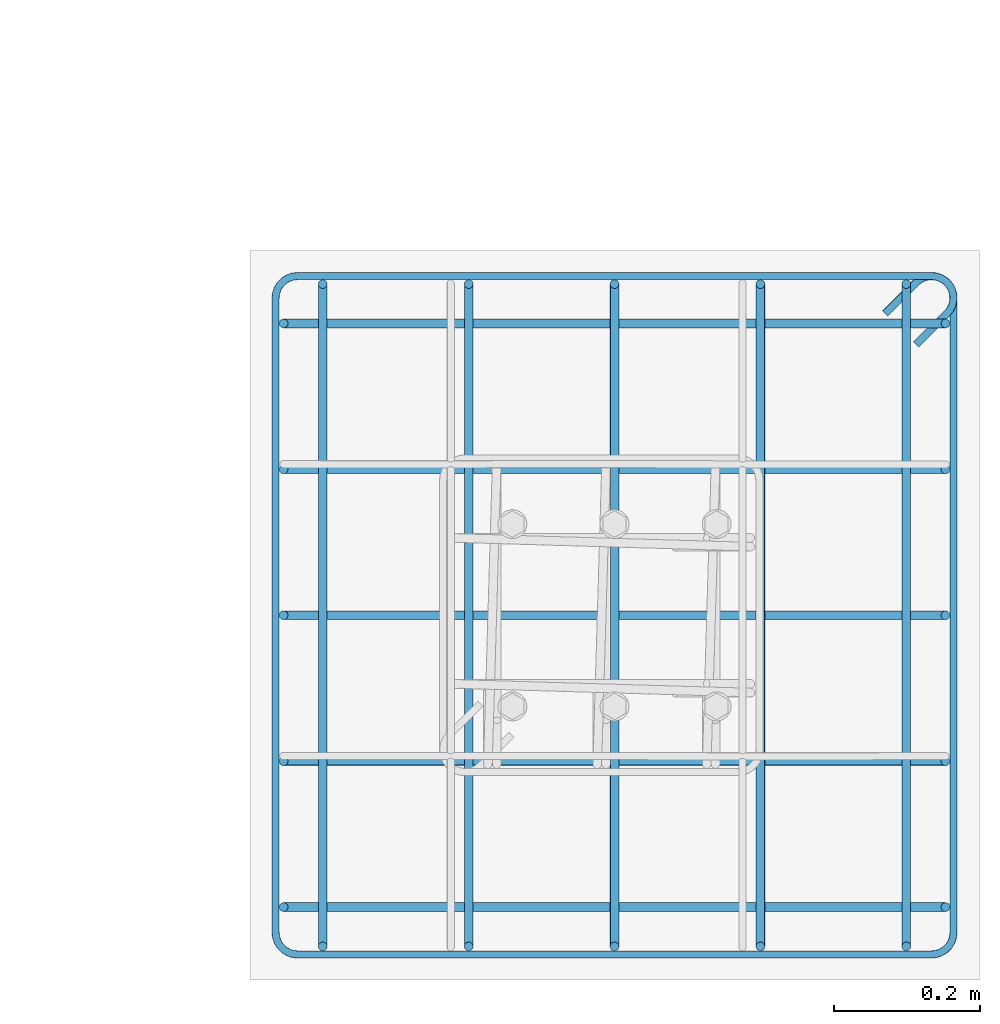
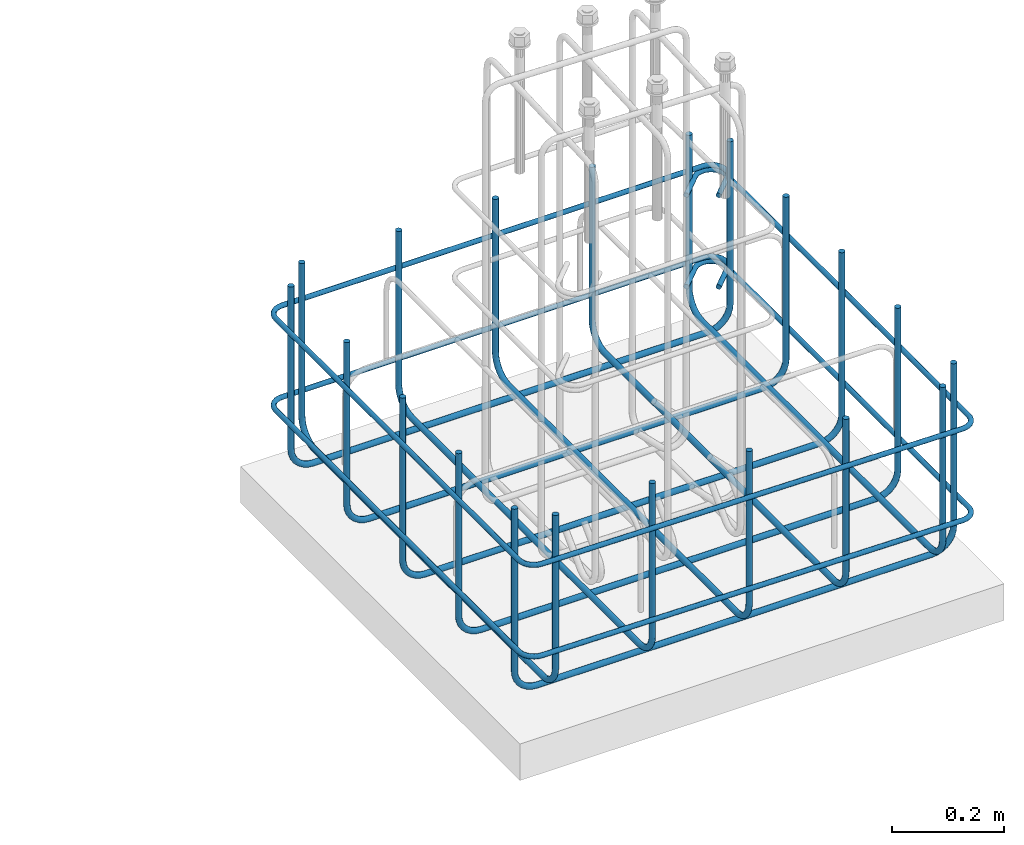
# One storey, part 9 of 12: 3 reinforcing bars.
"""IFC4X3_ADD2 building model written with IfcOpenShell, lengths in millimetres."""

from ifc_helpers import new_model, entity, si_unit, converted_unit, derived_unit, direction, frame, origin, place, context, subcontext, project, spatial, material, type_object, element, save


model = new_model("IFC4X3_ADD2")

# Units and contexts
model_context = context("Model", 3, precision=0.01, world=origin(), true_north=direction((6.123233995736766e-17, 1.0)))
plan_context = context("Plan", 3, precision=0.01, world=origin(), true_north=direction((6.123233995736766e-17, 1.0)))
body_context = subcontext(model_context, "Body", "Model", "MODEL_VIEW")
ifc_project = project(units=[si_unit("LENGTHUNIT", "METRE", prefix="MILLI"), converted_unit("PLANEANGLEUNIT", "DEGREE", entity("IfcPlaneAngleMeasure", 0.017453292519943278), si_unit("PLANEANGLEUNIT", "RADIAN"), dimensions=[0, 0, 0, 0, 0, 0, 0]), si_unit("AREAUNIT", "SQUARE_METRE"), si_unit("VOLUMEUNIT", "CUBIC_METRE"), derived_unit("THERMALTRANSMITTANCEUNIT", [(si_unit("MASSUNIT", "GRAM", prefix="KILO"), 1), (si_unit("THERMODYNAMICTEMPERATUREUNIT", "KELVIN"), -1), (si_unit("TIMEUNIT", "SECOND"), -3)]), derived_unit("USERDEFINED", [(si_unit("MASSUNIT", "GRAM", prefix="KILO"), 1), (si_unit("THERMODYNAMICTEMPERATUREUNIT", "KELVIN"), -1), (si_unit("TIMEUNIT", "SECOND"), -2)]), derived_unit("THERMALRESISTANCEUNIT", [(si_unit("MASSUNIT", "GRAM", prefix="KILO"), -1), (si_unit("TIMEUNIT", "SECOND"), 3), (si_unit("THERMODYNAMICTEMPERATUREUNIT", "KELVIN"), 1)]), si_unit("MASSUNIT", "GRAM", prefix="KILO"), derived_unit("MOMENTOFINERTIAUNIT", [(si_unit("LENGTHUNIT", "METRE"), 4)]), derived_unit("LINEARFORCEUNIT", [(si_unit("MASSUNIT", "GRAM", prefix="KILO"), 1), (si_unit("TIMEUNIT", "SECOND"), -2)]), derived_unit("WARPINGCONSTANTUNIT", [(si_unit("LENGTHUNIT", "METRE"), 6)]), si_unit("PRESSUREUNIT", "PASCAL"), derived_unit("MASSDENSITYUNIT", [(si_unit("MASSUNIT", "GRAM", prefix="KILO"), 1), (si_unit("LENGTHUNIT", "METRE"), -3)]), derived_unit("MODULUSOFELASTICITYUNIT", [(si_unit("MASSUNIT", "GRAM", prefix="KILO"), 1), (si_unit("TIMEUNIT", "SECOND"), -2), (si_unit("LENGTHUNIT", "METRE"), -1)]), derived_unit("THERMALEXPANSIONCOEFFICIENTUNIT", [(si_unit("THERMODYNAMICTEMPERATUREUNIT", "KELVIN"), -1)]), derived_unit("VAPORPERMEABILITYUNIT", [(si_unit("LENGTHUNIT", "METRE"), -1), (si_unit("TIMEUNIT", "SECOND"), 1)]), derived_unit("USERDEFINED", [(si_unit("MASSUNIT", "GRAM", prefix="KILO"), 1), (si_unit("TIMEUNIT", "SECOND"), -3), (si_unit("LENGTHUNIT", "METRE"), 3), (si_unit("ELECTRICCURRENTUNIT", "AMPERE"), -2)]), derived_unit("SPECIFICHEATCAPACITYUNIT", [(si_unit("THERMODYNAMICTEMPERATUREUNIT", "KELVIN"), -1), (si_unit("TIMEUNIT", "SECOND"), -2), (si_unit("LENGTHUNIT", "METRE"), 2)]), derived_unit("THERMALCONDUCTANCEUNIT", [(si_unit("MASSUNIT", "GRAM", prefix="KILO"), 1), (si_unit("THERMODYNAMICTEMPERATUREUNIT", "KELVIN"), -1), (si_unit("TIMEUNIT", "SECOND"), -3), (si_unit("LENGTHUNIT", "METRE"), 1)])], contexts=[model_context, plan_context])

# Site, building, storey
site_placement = place(None, origin())
site = spatial("IfcSite", under=ifc_project, at=site_placement, Name="Default", CompositionType="ELEMENT")
building_placement = place(site_placement, origin())
building = spatial("IfcBuilding", under=site, at=building_placement, Name="Complex structure", CompositionType="ELEMENT")
storey_placement = place(building_placement, frame((0.0, 0.0, -1200.0)))
storey = spatial("IfcBuildingStorey", under=building, at=storey_placement, Name="Level -03", CompositionType="ELEMENT", Elevation=-1200.0)

# Reinforcing bars
ifc_material = material(Name="Steel Rebar - B500A, B or C", Category="Unassigned")
reinforcing_bar_type_1 = type_object("IfcReinforcingBarType", Name="Rebar Bar:12mm", PredefinedType="NOTDEFINED")
reinforcing_bar_1_placement = place(storey_placement, origin())
ifc_direction_1 = entity("IfcDirection", [-1.0, 0.0, 0.0])
ifc_direction_2 = entity("IfcDirection", [-1.0, 0.0, 0.0])
ifc_direction_3 = entity("IfcDirection", [-1.0, 0.0, 0.0])
ifc_direction_4 = entity("IfcDirection", [-1.0, 0.0, 0.0])
ifc_direction_5 = entity("IfcDirection", [-1.0, 0.0, 0.0])
element("IfcReinforcingBar", 1, at=reinforcing_bar_1_placement, inside=storey, type_object=reinforcing_bar_type_1, material=ifc_material, Name="Rebar Bar:12mm : Shape 21", ObjectType="Rebar Bar:12mm", context=body_context, shape_type="AdvancedSweptSolid", body=[
    entity("IfcSweptDiskSolid", entity("IfcCompositeCurve", [entity("IfcCompositeCurveSegment", "CONTINUOUS", True, entity("IfcPolyline", [entity("IfcCartesianPoint", [-745.221550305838, -828.8667039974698, 440.0]), entity("IfcCartesianPoint", [-745.221550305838, -828.8667039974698, 104.0])])), entity("IfcCompositeCurveSegment", "CONTINUOUS", True, entity("IfcTrimmedCurve", entity("IfcCircle", entity("IfcAxis2Placement3D", entity("IfcCartesianPoint", [-745.2215503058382, -874.8667039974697, 104.0]), ifc_direction_1, entity("IfcDirection", [0.0, 0.0, -1.0])), 46.0), [entity("IfcParameterValue", 269.9999999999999)], [entity("IfcParameterValue", 360.00000000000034)], True, "PARAMETER")), entity("IfcCompositeCurveSegment", "CONTINUOUS", True, entity("IfcPolyline", [entity("IfcCartesianPoint", [-745.2215503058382, -874.8667039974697, 58.0]), entity("IfcCartesianPoint", [-745.22155030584, -1690.866703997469, 58.0])])), entity("IfcCompositeCurveSegment", "CONTINUOUS", True, entity("IfcTrimmedCurve", entity("IfcCircle", entity("IfcAxis2Placement3D", entity("IfcCartesianPoint", [-745.22155030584, -1690.866703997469, 104.0]), ifc_direction_1, entity("IfcDirection", [0.0, -1.0, 0.0])), 46.0), [entity("IfcParameterValue", 269.9999999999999)], [entity("IfcParameterValue", 360.00000000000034)], True, "PARAMETER")), entity("IfcCompositeCurveSegment", "CONTINUOUS", True, entity("IfcPolyline", [entity("IfcCartesianPoint", [-745.2215503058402, -1736.8667039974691, 104.0]), entity("IfcCartesianPoint", [-745.2215503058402, -1736.8667039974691, 440.0])]))], False), 6.0, None, 0.0, 183.00000000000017),
    entity("IfcSweptDiskSolid", entity("IfcCompositeCurve", [entity("IfcCompositeCurveSegment", "CONTINUOUS", True, entity("IfcPolyline", [entity("IfcCartesianPoint", [-945.221550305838, -828.8667039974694, 440.0]), entity("IfcCartesianPoint", [-945.221550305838, -828.8667039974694, 104.0])])), entity("IfcCompositeCurveSegment", "CONTINUOUS", True, entity("IfcTrimmedCurve", entity("IfcCircle", entity("IfcAxis2Placement3D", entity("IfcCartesianPoint", [-945.2215503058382, -874.8667039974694, 104.0]), ifc_direction_2, entity("IfcDirection", [0.0, 0.0, -1.0])), 46.0), [entity("IfcParameterValue", 269.9999999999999)], [entity("IfcParameterValue", 360.00000000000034)], True, "PARAMETER")), entity("IfcCompositeCurveSegment", "CONTINUOUS", True, entity("IfcPolyline", [entity("IfcCartesianPoint", [-945.2215503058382, -874.8667039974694, 58.0]), entity("IfcCartesianPoint", [-945.2215503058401, -1690.8667039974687, 58.0])])), entity("IfcCompositeCurveSegment", "CONTINUOUS", True, entity("IfcTrimmedCurve", entity("IfcCircle", entity("IfcAxis2Placement3D", entity("IfcCartesianPoint", [-945.2215503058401, -1690.8667039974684, 104.0]), ifc_direction_2, entity("IfcDirection", [0.0, -1.0, 0.0])), 46.0), [entity("IfcParameterValue", 269.9999999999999)], [entity("IfcParameterValue", 360.00000000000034)], True, "PARAMETER")), entity("IfcCompositeCurveSegment", "CONTINUOUS", True, entity("IfcPolyline", [entity("IfcCartesianPoint", [-945.2215503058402, -1736.8667039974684, 104.0]), entity("IfcCartesianPoint", [-945.2215503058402, -1736.8667039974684, 440.0])]))], False), 6.0, None, 0.0, 183.00000000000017),
    entity("IfcSweptDiskSolid", entity("IfcCompositeCurve", [entity("IfcCompositeCurveSegment", "CONTINUOUS", True, entity("IfcPolyline", [entity("IfcCartesianPoint", [-1145.221550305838, -828.8667039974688, 440.0]), entity("IfcCartesianPoint", [-1145.221550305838, -828.8667039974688, 104.0])])), entity("IfcCompositeCurveSegment", "CONTINUOUS", True, entity("IfcTrimmedCurve", entity("IfcCircle", entity("IfcAxis2Placement3D", entity("IfcCartesianPoint", [-1145.2215503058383, -874.8667039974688, 104.0]), ifc_direction_3, entity("IfcDirection", [0.0, 0.0, -1.0])), 46.0), [entity("IfcParameterValue", 269.9999999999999)], [entity("IfcParameterValue", 360.00000000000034)], True, "PARAMETER")), entity("IfcCompositeCurveSegment", "CONTINUOUS", True, entity("IfcPolyline", [entity("IfcCartesianPoint", [-1145.2215503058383, -874.8667039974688, 58.0]), entity("IfcCartesianPoint", [-1145.22155030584, -1690.8667039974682, 58.0])])), entity("IfcCompositeCurveSegment", "CONTINUOUS", True, entity("IfcTrimmedCurve", entity("IfcCircle", entity("IfcAxis2Placement3D", entity("IfcCartesianPoint", [-1145.22155030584, -1690.8667039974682, 104.0]), ifc_direction_3, entity("IfcDirection", [0.0, -1.0, 0.0])), 46.0), [entity("IfcParameterValue", 269.9999999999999)], [entity("IfcParameterValue", 360.00000000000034)], True, "PARAMETER")), entity("IfcCompositeCurveSegment", "CONTINUOUS", True, entity("IfcPolyline", [entity("IfcCartesianPoint", [-1145.22155030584, -1736.8667039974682, 104.0]), entity("IfcCartesianPoint", [-1145.22155030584, -1736.8667039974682, 440.0])]))], False), 6.0, None, 0.0, 183.00000000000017),
    entity("IfcSweptDiskSolid", entity("IfcCompositeCurve", [entity("IfcCompositeCurveSegment", "CONTINUOUS", True, entity("IfcPolyline", [entity("IfcCartesianPoint", [-1345.221550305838, -828.8667039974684, 440.0]), entity("IfcCartesianPoint", [-1345.221550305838, -828.8667039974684, 104.0])])), entity("IfcCompositeCurveSegment", "CONTINUOUS", True, entity("IfcTrimmedCurve", entity("IfcCircle", entity("IfcAxis2Placement3D", entity("IfcCartesianPoint", [-1345.221550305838, -874.8667039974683, 104.0]), ifc_direction_4, entity("IfcDirection", [0.0, 0.0, -1.0])), 46.0), [entity("IfcParameterValue", 269.9999999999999)], [entity("IfcParameterValue", 360.00000000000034)], True, "PARAMETER")), entity("IfcCompositeCurveSegment", "CONTINUOUS", True, entity("IfcPolyline", [entity("IfcCartesianPoint", [-1345.221550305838, -874.8667039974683, 58.0]), entity("IfcCartesianPoint", [-1345.2215503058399, -1690.8667039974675, 58.0])])), entity("IfcCompositeCurveSegment", "CONTINUOUS", True, entity("IfcTrimmedCurve", entity("IfcCircle", entity("IfcAxis2Placement3D", entity("IfcCartesianPoint", [-1345.2215503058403, -1690.8667039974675, 104.0]), ifc_direction_4, entity("IfcDirection", [0.0, -1.0, 0.0])), 46.0), [entity("IfcParameterValue", 269.9999999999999)], [entity("IfcParameterValue", 360.00000000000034)], True, "PARAMETER")), entity("IfcCompositeCurveSegment", "CONTINUOUS", True, entity("IfcPolyline", [entity("IfcCartesianPoint", [-1345.2215503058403, -1736.8667039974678, 104.0]), entity("IfcCartesianPoint", [-1345.2215503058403, -1736.8667039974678, 440.0])]))], False), 6.0, None, 0.0, 183.00000000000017),
    entity("IfcSweptDiskSolid", entity("IfcCompositeCurve", [entity("IfcCompositeCurveSegment", "CONTINUOUS", True, entity("IfcPolyline", [entity("IfcCartesianPoint", [-1545.221550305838, -828.8667039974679, 440.0]), entity("IfcCartesianPoint", [-1545.221550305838, -828.8667039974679, 104.0])])), entity("IfcCompositeCurveSegment", "CONTINUOUS", True, entity("IfcTrimmedCurve", entity("IfcCircle", entity("IfcAxis2Placement3D", entity("IfcCartesianPoint", [-1545.221550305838, -874.8667039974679, 104.0]), ifc_direction_5, entity("IfcDirection", [0.0, 0.0, -1.0])), 46.0), [entity("IfcParameterValue", 269.9999999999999)], [entity("IfcParameterValue", 360.00000000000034)], True, "PARAMETER")), entity("IfcCompositeCurveSegment", "CONTINUOUS", True, entity("IfcPolyline", [entity("IfcCartesianPoint", [-1545.221550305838, -874.8667039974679, 58.0]), entity("IfcCartesianPoint", [-1545.2215503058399, -1690.866703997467, 58.0])])), entity("IfcCompositeCurveSegment", "CONTINUOUS", True, entity("IfcTrimmedCurve", entity("IfcCircle", entity("IfcAxis2Placement3D", entity("IfcCartesianPoint", [-1545.2215503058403, -1690.866703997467, 104.0]), ifc_direction_5, entity("IfcDirection", [0.0, -1.0, 0.0])), 46.0), [entity("IfcParameterValue", 269.9999999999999)], [entity("IfcParameterValue", 360.00000000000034)], True, "PARAMETER")), entity("IfcCompositeCurveSegment", "CONTINUOUS", True, entity("IfcPolyline", [entity("IfcCartesianPoint", [-1545.2215503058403, -1736.866703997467, 104.0]), entity("IfcCartesianPoint", [-1545.2215503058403, -1736.866703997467, 440.0])]))], False), 6.0, None, 0.0, 183.00000000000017),
])
reinforcing_bar_2_placement = place(storey_placement, origin())
ifc_direction_6 = entity("IfcDirection", [0.0, -1.0, 0.0])
ifc_direction_7 = entity("IfcDirection", [0.0, -1.0, 0.0])
ifc_direction_8 = entity("IfcDirection", [0.0, -1.0, 0.0])
ifc_direction_9 = entity("IfcDirection", [0.0, -1.0, 0.0])
ifc_direction_10 = entity("IfcDirection", [0.0, -1.0, 0.0])
element("IfcReinforcingBar", 2, at=reinforcing_bar_2_placement, inside=storey, type_object=reinforcing_bar_type_1, material=ifc_material, Name="Rebar Bar:12mm : Shape 21", ObjectType="Rebar Bar:12mm", context=body_context, shape_type="AdvancedSweptSolid", body=[
    entity("IfcSweptDiskSolid", entity("IfcCompositeCurve", [entity("IfcCompositeCurveSegment", "CONTINUOUS", True, entity("IfcPolyline", [entity("IfcCartesianPoint", [-1598.8715503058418, -882.8667039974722, 440.0]), entity("IfcCartesianPoint", [-1598.8715503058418, -882.8667039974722, 82.0])])), entity("IfcCompositeCurveSegment", "CONTINUOUS", True, entity("IfcTrimmedCurve", entity("IfcCircle", entity("IfcAxis2Placement3D", entity("IfcCartesianPoint", [-1552.8715503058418, -882.8667039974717, 82.0]), ifc_direction_6, entity("IfcDirection", [0.0, 0.0, -1.0])), 46.0), [entity("IfcParameterValue", 269.9999999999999)], [entity("IfcParameterValue", 360.00000000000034)], True, "PARAMETER")), entity("IfcCompositeCurveSegment", "CONTINUOUS", True, entity("IfcPolyline", [entity("IfcCartesianPoint", [-1552.8715503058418, -882.8667039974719, 36.0]), entity("IfcCartesianPoint", [-737.5715503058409, -882.8667039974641, 36.0])])), entity("IfcCompositeCurveSegment", "CONTINUOUS", True, entity("IfcTrimmedCurve", entity("IfcCircle", entity("IfcAxis2Placement3D", entity("IfcCartesianPoint", [-737.5715503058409, -882.8667039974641, 82.0]), ifc_direction_6, entity("IfcDirection", [1.0, 0.0, 0.0])), 46.0), [entity("IfcParameterValue", 269.9999999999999)], [entity("IfcParameterValue", 360.00000000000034)], True, "PARAMETER")), entity("IfcCompositeCurveSegment", "CONTINUOUS", True, entity("IfcPolyline", [entity("IfcCartesianPoint", [-691.571550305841, -882.8667039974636, 82.0]), entity("IfcCartesianPoint", [-691.571550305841, -882.8667039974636, 440.0])]))], False), 6.0, None, 0.0, 183.00000000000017),
    entity("IfcSweptDiskSolid", entity("IfcCompositeCurve", [entity("IfcCompositeCurveSegment", "CONTINUOUS", True, entity("IfcPolyline", [entity("IfcCartesianPoint", [-1598.87155030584, -1082.8667039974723, 440.0]), entity("IfcCartesianPoint", [-1598.87155030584, -1082.8667039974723, 82.0])])), entity("IfcCompositeCurveSegment", "CONTINUOUS", True, entity("IfcTrimmedCurve", entity("IfcCircle", entity("IfcAxis2Placement3D", entity("IfcCartesianPoint", [-1552.8715503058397, -1082.8667039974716, 82.0]), ifc_direction_7, entity("IfcDirection", [0.0, 0.0, -1.0])), 46.0), [entity("IfcParameterValue", 269.9999999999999)], [entity("IfcParameterValue", 360.00000000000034)], True, "PARAMETER")), entity("IfcCompositeCurveSegment", "CONTINUOUS", True, entity("IfcPolyline", [entity("IfcCartesianPoint", [-1552.8715503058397, -1082.8667039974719, 36.0]), entity("IfcCartesianPoint", [-737.5715503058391, -1082.8667039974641, 36.0])])), entity("IfcCompositeCurveSegment", "CONTINUOUS", True, entity("IfcTrimmedCurve", entity("IfcCircle", entity("IfcAxis2Placement3D", entity("IfcCartesianPoint", [-737.5715503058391, -1082.8667039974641, 82.0]), ifc_direction_7, entity("IfcDirection", [1.0, 0.0, 0.0])), 46.0), [entity("IfcParameterValue", 269.9999999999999)], [entity("IfcParameterValue", 360.00000000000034)], True, "PARAMETER")), entity("IfcCompositeCurveSegment", "CONTINUOUS", True, entity("IfcPolyline", [entity("IfcCartesianPoint", [-691.5715503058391, -1082.8667039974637, 82.0]), entity("IfcCartesianPoint", [-691.5715503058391, -1082.8667039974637, 440.0])]))], False), 6.0, None, 0.0, 183.00000000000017),
    entity("IfcSweptDiskSolid", entity("IfcCompositeCurve", [entity("IfcCompositeCurveSegment", "CONTINUOUS", True, entity("IfcPolyline", [entity("IfcCartesianPoint", [-1598.8715503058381, -1282.866703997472, 440.0]), entity("IfcCartesianPoint", [-1598.8715503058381, -1282.866703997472, 82.0])])), entity("IfcCompositeCurveSegment", "CONTINUOUS", True, entity("IfcTrimmedCurve", entity("IfcCircle", entity("IfcAxis2Placement3D", entity("IfcCartesianPoint", [-1552.871550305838, -1282.8667039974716, 82.0]), ifc_direction_8, entity("IfcDirection", [0.0, 0.0, -1.0])), 46.0), [entity("IfcParameterValue", 269.9999999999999)], [entity("IfcParameterValue", 360.00000000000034)], True, "PARAMETER")), entity("IfcCompositeCurveSegment", "CONTINUOUS", True, entity("IfcPolyline", [entity("IfcCartesianPoint", [-1552.871550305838, -1282.8667039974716, 36.0]), entity("IfcCartesianPoint", [-737.5715503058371, -1282.866703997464, 36.0])])), entity("IfcCompositeCurveSegment", "CONTINUOUS", True, entity("IfcTrimmedCurve", entity("IfcCircle", entity("IfcAxis2Placement3D", entity("IfcCartesianPoint", [-737.5715503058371, -1282.866703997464, 82.0]), ifc_direction_8, entity("IfcDirection", [1.0, 0.0, 0.0])), 46.0), [entity("IfcParameterValue", 269.9999999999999)], [entity("IfcParameterValue", 360.00000000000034)], True, "PARAMETER")), entity("IfcCompositeCurveSegment", "CONTINUOUS", True, entity("IfcPolyline", [entity("IfcCartesianPoint", [-691.5715503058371, -1282.8667039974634, 82.0]), entity("IfcCartesianPoint", [-691.5715503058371, -1282.8667039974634, 440.0])]))], False), 6.0, None, 0.0, 183.00000000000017),
    entity("IfcSweptDiskSolid", entity("IfcCompositeCurve", [entity("IfcCompositeCurveSegment", "CONTINUOUS", True, entity("IfcPolyline", [entity("IfcCartesianPoint", [-1598.871550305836, -1482.866703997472, 440.0]), entity("IfcCartesianPoint", [-1598.871550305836, -1482.866703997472, 82.0])])), entity("IfcCompositeCurveSegment", "CONTINUOUS", True, entity("IfcTrimmedCurve", entity("IfcCircle", entity("IfcAxis2Placement3D", entity("IfcCartesianPoint", [-1552.871550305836, -1482.8667039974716, 82.0]), ifc_direction_9, entity("IfcDirection", [0.0, 0.0, -1.0])), 46.0), [entity("IfcParameterValue", 269.9999999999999)], [entity("IfcParameterValue", 360.00000000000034)], True, "PARAMETER")), entity("IfcCompositeCurveSegment", "CONTINUOUS", True, entity("IfcPolyline", [entity("IfcCartesianPoint", [-1552.871550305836, -1482.8667039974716, 36.0]), entity("IfcCartesianPoint", [-737.5715503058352, -1482.8667039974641, 36.0])])), entity("IfcCompositeCurveSegment", "CONTINUOUS", True, entity("IfcTrimmedCurve", entity("IfcCircle", entity("IfcAxis2Placement3D", entity("IfcCartesianPoint", [-737.5715503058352, -1482.8667039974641, 82.0]), ifc_direction_9, entity("IfcDirection", [1.0, 0.0, 0.0])), 46.0), [entity("IfcParameterValue", 269.9999999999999)], [entity("IfcParameterValue", 360.00000000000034)], True, "PARAMETER")), entity("IfcCompositeCurveSegment", "CONTINUOUS", True, entity("IfcPolyline", [entity("IfcCartesianPoint", [-691.5715503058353, -1482.8667039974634, 82.0]), entity("IfcCartesianPoint", [-691.5715503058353, -1482.8667039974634, 440.0])]))], False), 6.0, None, 0.0, 183.00000000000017),
    entity("IfcSweptDiskSolid", entity("IfcCompositeCurve", [entity("IfcCompositeCurveSegment", "CONTINUOUS", True, entity("IfcPolyline", [entity("IfcCartesianPoint", [-1598.8715503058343, -1682.866703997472, 440.0]), entity("IfcCartesianPoint", [-1598.8715503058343, -1682.866703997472, 82.0])])), entity("IfcCompositeCurveSegment", "CONTINUOUS", True, entity("IfcTrimmedCurve", entity("IfcCircle", entity("IfcAxis2Placement3D", entity("IfcCartesianPoint", [-1552.871550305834, -1682.8667039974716, 82.0]), ifc_direction_10, entity("IfcDirection", [0.0, 0.0, -1.0])), 46.0), [entity("IfcParameterValue", 269.9999999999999)], [entity("IfcParameterValue", 360.00000000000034)], True, "PARAMETER")), entity("IfcCompositeCurveSegment", "CONTINUOUS", True, entity("IfcPolyline", [entity("IfcCartesianPoint", [-1552.871550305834, -1682.8667039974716, 36.0]), entity("IfcCartesianPoint", [-737.5715503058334, -1682.8667039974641, 36.0])])), entity("IfcCompositeCurveSegment", "CONTINUOUS", True, entity("IfcTrimmedCurve", entity("IfcCircle", entity("IfcAxis2Placement3D", entity("IfcCartesianPoint", [-737.5715503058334, -1682.8667039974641, 82.0]), ifc_direction_10, entity("IfcDirection", [1.0, 0.0, 0.0])), 46.0), [entity("IfcParameterValue", 269.9999999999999)], [entity("IfcParameterValue", 360.00000000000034)], True, "PARAMETER")), entity("IfcCompositeCurveSegment", "CONTINUOUS", True, entity("IfcPolyline", [entity("IfcCartesianPoint", [-691.5715503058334, -1682.8667039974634, 82.0]), entity("IfcCartesianPoint", [-691.5715503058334, -1682.8667039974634, 440.0])]))], False), 6.0, None, 0.0, 183.00000000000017),
])
reinforcing_bar_type_2 = type_object("IfcReinforcingBarType", Name="Rebar Bar:10mm", PredefinedType="NOTDEFINED")
reinforcing_bar_3_placement = place(storey_placement, origin())
ifc_direction_11 = entity("IfcDirection", [0.0, 0.0, 1.0])
ifc_direction_12 = entity("IfcDirection", [0.0, 0.0, 1.0])
element("IfcReinforcingBar", 3, at=reinforcing_bar_3_placement, inside=storey, type_object=reinforcing_bar_type_2, material=ifc_material, Name="Rebar Bar:10mm : Shape 52", ObjectType="Rebar Bar:10mm", context=body_context, shape_type="AdvancedSweptSolid", body=[
    entity("IfcSweptDiskSolid", entity("IfcCompositeCurve", [entity("IfcCompositeCurveSegment", "CONTINUOUS", True, entity("IfcPolyline", [entity("IfcCartesianPoint", [-731.784753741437, -911.5063143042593, 150.0]), entity("IfcCartesianPoint", [-689.3583468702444, -869.0799074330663, 150.0])])), entity("IfcCompositeCurveSegment", "CONTINUOUS", True, entity("IfcTrimmedCurve", entity("IfcCircle", entity("IfcAxis2Placement3D", entity("IfcCartesianPoint", [-710.5715503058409, -847.8667039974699, 150.0]), ifc_direction_11, entity("IfcDirection", [0.7071067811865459, 0.7071067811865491, 0.0])), 30.000000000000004), [entity("IfcParameterValue", 269.9999999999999)], [entity("IfcParameterValue", 44.99999999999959)], True, "PARAMETER")), entity("IfcCompositeCurveSegment", "CONTINUOUS", True, entity("IfcPolyline", [entity("IfcCartesianPoint", [-710.5715503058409, -817.8667039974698, 150.0]), entity("IfcCartesianPoint", [-1579.8715503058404, -817.8667039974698, 150.0])])), entity("IfcCompositeCurveSegment", "CONTINUOUS", True, entity("IfcTrimmedCurve", entity("IfcCircle", entity("IfcAxis2Placement3D", entity("IfcCartesianPoint", [-1579.8715503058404, -847.8667039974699, 150.0]), ifc_direction_11, entity("IfcDirection", [-1.0, 0.0, 0.0])), 30.000000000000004), [entity("IfcParameterValue", 269.9999999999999)], [entity("IfcParameterValue", 360.00000000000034)], True, "PARAMETER")), entity("IfcCompositeCurveSegment", "CONTINUOUS", True, entity("IfcPolyline", [entity("IfcCartesianPoint", [-1609.8715503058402, -847.8667039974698, 150.0]), entity("IfcCartesianPoint", [-1609.8715503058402, -1717.8667039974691, 150.0])])), entity("IfcCompositeCurveSegment", "CONTINUOUS", True, entity("IfcTrimmedCurve", entity("IfcCircle", entity("IfcAxis2Placement3D", entity("IfcCartesianPoint", [-1579.873287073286, -1717.8667039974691, 149.67719505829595]), entity("IfcDirection", [0.010760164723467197, 0.0, 0.9999421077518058]), entity("IfcDirection", [0.0, -1.0, 0.0])), 30.000000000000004), [entity("IfcParameterValue", 269.9999999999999)], [entity("IfcParameterValue", 360.00000000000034)], True, "PARAMETER")), entity("IfcCompositeCurveSegment", "CONTINUOUS", True, entity("IfcPolyline", [entity("IfcCartesianPoint", [-1579.873287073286, -1747.8667039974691, 149.67719505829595]), entity("IfcCartesianPoint", [-710.569813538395, -1747.8667039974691, 140.32280494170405])])), entity("IfcCompositeCurveSegment", "CONTINUOUS", True, entity("IfcTrimmedCurve", entity("IfcCircle", entity("IfcAxis2Placement3D", entity("IfcCartesianPoint", [-710.5698135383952, -1717.8667039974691, 140.32280494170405]), entity("IfcDirection", [0.010760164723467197, 0.0, 0.9999421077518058]), entity("IfcDirection", [0.9999421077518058, 0.0, -0.010760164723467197])), 30.000000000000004), [entity("IfcParameterValue", 269.9999999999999)], [entity("IfcParameterValue", 360.00000000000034)], True, "PARAMETER")), entity("IfcCompositeCurveSegment", "CONTINUOUS", True, entity("IfcPolyline", [entity("IfcCartesianPoint", [-680.5715503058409, -1717.8667039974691, 140.0]), entity("IfcCartesianPoint", [-680.5715503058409, -847.8667039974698, 140.0])])), entity("IfcCompositeCurveSegment", "CONTINUOUS", True, entity("IfcTrimmedCurve", entity("IfcCircle", entity("IfcAxis2Placement3D", entity("IfcCartesianPoint", [-710.5715503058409, -847.8667039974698, 140.0]), ifc_direction_11, entity("IfcDirection", [0.0, 1.0, 0.0])), 30.000000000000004), [entity("IfcParameterValue", 269.9999999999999)], [entity("IfcParameterValue", 44.99999999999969)], True, "PARAMETER")), entity("IfcCompositeCurveSegment", "CONTINUOUS", True, entity("IfcPolyline", [entity("IfcCartesianPoint", [-731.7847537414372, -826.6535005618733, 140.0]), entity("IfcCartesianPoint", [-774.2111606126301, -869.079907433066, 140.0])]))], False), 5.0, None, 0.0, 546.0000000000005),
    entity("IfcSweptDiskSolid", entity("IfcCompositeCurve", [entity("IfcCompositeCurveSegment", "CONTINUOUS", True, entity("IfcPolyline", [entity("IfcCartesianPoint", [-731.784753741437, -911.5063143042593, 350.0]), entity("IfcCartesianPoint", [-689.3583468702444, -869.0799074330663, 350.0])])), entity("IfcCompositeCurveSegment", "CONTINUOUS", True, entity("IfcTrimmedCurve", entity("IfcCircle", entity("IfcAxis2Placement3D", entity("IfcCartesianPoint", [-710.5715503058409, -847.8667039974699, 350.0]), ifc_direction_12, entity("IfcDirection", [0.7071067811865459, 0.7071067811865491, 0.0])), 30.000000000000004), [entity("IfcParameterValue", 269.9999999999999)], [entity("IfcParameterValue", 44.99999999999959)], True, "PARAMETER")), entity("IfcCompositeCurveSegment", "CONTINUOUS", True, entity("IfcPolyline", [entity("IfcCartesianPoint", [-710.5715503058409, -817.8667039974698, 350.0]), entity("IfcCartesianPoint", [-1579.8715503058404, -817.8667039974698, 350.0])])), entity("IfcCompositeCurveSegment", "CONTINUOUS", True, entity("IfcTrimmedCurve", entity("IfcCircle", entity("IfcAxis2Placement3D", entity("IfcCartesianPoint", [-1579.8715503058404, -847.8667039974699, 350.0]), ifc_direction_12, entity("IfcDirection", [-1.0, 0.0, 0.0])), 30.000000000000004), [entity("IfcParameterValue", 269.9999999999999)], [entity("IfcParameterValue", 360.00000000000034)], True, "PARAMETER")), entity("IfcCompositeCurveSegment", "CONTINUOUS", True, entity("IfcPolyline", [entity("IfcCartesianPoint", [-1609.8715503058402, -847.8667039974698, 350.0]), entity("IfcCartesianPoint", [-1609.8715503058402, -1717.8667039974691, 350.0])])), entity("IfcCompositeCurveSegment", "CONTINUOUS", True, entity("IfcTrimmedCurve", entity("IfcCircle", entity("IfcAxis2Placement3D", entity("IfcCartesianPoint", [-1579.873287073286, -1717.8667039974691, 349.677195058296]), entity("IfcDirection", [0.010760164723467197, 0.0, 0.9999421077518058]), entity("IfcDirection", [0.0, -1.0, 0.0])), 30.000000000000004), [entity("IfcParameterValue", 269.9999999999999)], [entity("IfcParameterValue", 360.00000000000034)], True, "PARAMETER")), entity("IfcCompositeCurveSegment", "CONTINUOUS", True, entity("IfcPolyline", [entity("IfcCartesianPoint", [-1579.873287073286, -1747.8667039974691, 349.677195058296]), entity("IfcCartesianPoint", [-710.569813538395, -1747.8667039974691, 340.3228049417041])])), entity("IfcCompositeCurveSegment", "CONTINUOUS", True, entity("IfcTrimmedCurve", entity("IfcCircle", entity("IfcAxis2Placement3D", entity("IfcCartesianPoint", [-710.5698135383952, -1717.8667039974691, 340.3228049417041]), entity("IfcDirection", [0.010760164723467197, 0.0, 0.9999421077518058]), entity("IfcDirection", [0.9999421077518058, 0.0, -0.010760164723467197])), 30.000000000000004), [entity("IfcParameterValue", 269.9999999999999)], [entity("IfcParameterValue", 360.00000000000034)], True, "PARAMETER")), entity("IfcCompositeCurveSegment", "CONTINUOUS", True, entity("IfcPolyline", [entity("IfcCartesianPoint", [-680.5715503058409, -1717.8667039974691, 340.0]), entity("IfcCartesianPoint", [-680.5715503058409, -847.8667039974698, 340.0])])), entity("IfcCompositeCurveSegment", "CONTINUOUS", True, entity("IfcTrimmedCurve", entity("IfcCircle", entity("IfcAxis2Placement3D", entity("IfcCartesianPoint", [-710.5715503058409, -847.8667039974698, 340.0]), ifc_direction_12, entity("IfcDirection", [0.0, 1.0, 0.0])), 30.000000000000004), [entity("IfcParameterValue", 269.9999999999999)], [entity("IfcParameterValue", 44.99999999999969)], True, "PARAMETER")), entity("IfcCompositeCurveSegment", "CONTINUOUS", True, entity("IfcPolyline", [entity("IfcCartesianPoint", [-731.7847537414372, -826.6535005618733, 340.0]), entity("IfcCartesianPoint", [-774.2111606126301, -869.079907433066, 340.0])]))], False), 5.0, None, 0.0, 546.0000000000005),
])

save(model, "model.ifc")
